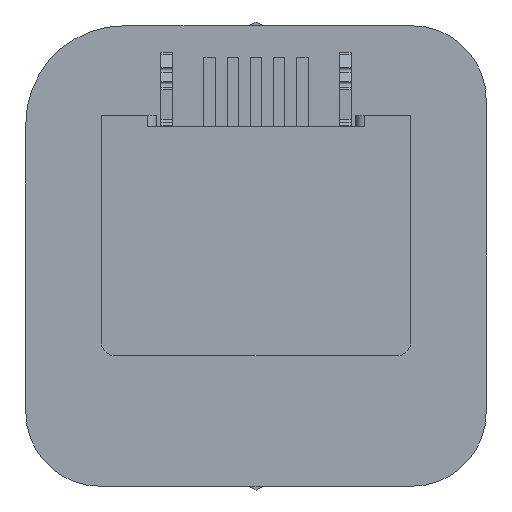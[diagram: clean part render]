
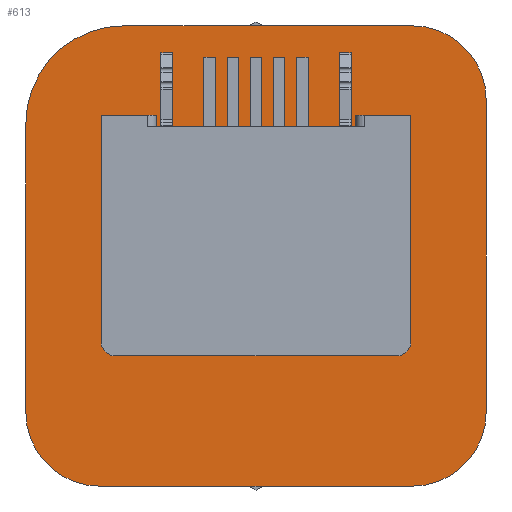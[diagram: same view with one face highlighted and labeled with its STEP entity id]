
A CAD part, front view. The second image highlights one B-rep face of the part: STEP entity #613.
In plain terms, the highlighted planar face has unit normal (0, -1, 0) as drawn and (0, 0, -1) by its records, which use the part's own axes.
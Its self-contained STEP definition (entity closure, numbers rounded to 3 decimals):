
#613 = ADVANCED_FACE( '', ( #1340, #1341 ), #1342, .F. );
#1340 = FACE_BOUND( '', #2133, .T. );
#1341 = FACE_OUTER_BOUND( '', #2134, .T. );
#1342 = PLANE( '', #2135 );
#2133 = EDGE_LOOP( '', ( #5061, #5062, #5063, #5064, #5065, #5066, #5067, #5068, #5069, #5070 ) );
#2134 = EDGE_LOOP( '', ( #5071, #5072, #5073, #5074, #5075, #5076, #5077, #5078 ) );
#2135 = AXIS2_PLACEMENT_3D( '', #5079, #5080, #5081 );
#5061 = ORIENTED_EDGE( '', *, *, #6563, .T. );
#5062 = ORIENTED_EDGE( '', *, *, #6561, .T. );
#5063 = ORIENTED_EDGE( '', *, *, #6558, .T. );
#5064 = ORIENTED_EDGE( '', *, *, #6555, .T. );
#5065 = ORIENTED_EDGE( '', *, *, #6572, .T. );
#5066 = ORIENTED_EDGE( '', *, *, #6524, .T. );
#5067 = ORIENTED_EDGE( '', *, *, #6573, .F. );
#5068 = ORIENTED_EDGE( '', *, *, #6574, .T. );
#5069 = ORIENTED_EDGE( '', *, *, #6575, .T. );
#5070 = ORIENTED_EDGE( '', *, *, #6530, .T. );
#5071 = ORIENTED_EDGE( '', *, *, #6518, .F. );
#5072 = ORIENTED_EDGE( '', *, *, #6516, .F. );
#5073 = ORIENTED_EDGE( '', *, *, #6514, .F. );
#5074 = ORIENTED_EDGE( '', *, *, #6512, .F. );
#5075 = ORIENTED_EDGE( '', *, *, #6510, .F. );
#5076 = ORIENTED_EDGE( '', *, *, #6508, .F. );
#5077 = ORIENTED_EDGE( '', *, *, #6506, .F. );
#5078 = ORIENTED_EDGE( '', *, *, #6504, .F. );
#5079 = CARTESIAN_POINT( '', ( 0., 0., 0. ) );
#5080 = DIRECTION( '', ( 0., 0., 1. ) );
#5081 = DIRECTION( '', ( 1., 0., 0. ) );
#6504 = EDGE_CURVE( '', #8190, #8192, #8193, .T. );
#6506 = EDGE_CURVE( '', #8192, #8195, #8196, .T. );
#6508 = EDGE_CURVE( '', #8195, #8198, #8199, .T. );
#6510 = EDGE_CURVE( '', #8198, #8201, #8202, .T. );
#6512 = EDGE_CURVE( '', #8201, #8204, #8205, .T. );
#6514 = EDGE_CURVE( '', #8204, #8207, #8208, .T. );
#6516 = EDGE_CURVE( '', #8207, #8210, #8211, .T. );
#6518 = EDGE_CURVE( '', #8210, #8190, #8213, .T. );
#6524 = EDGE_CURVE( '', #8214, #8223, #8225, .T. );
#6530 = EDGE_CURVE( '', #8226, #8235, #8237, .T. );
#6555 = EDGE_CURVE( '', #8287, #8285, #8288, .T. );
#6558 = EDGE_CURVE( '', #8292, #8287, #8293, .T. );
#6561 = EDGE_CURVE( '', #8297, #8292, #8298, .T. );
#6563 = EDGE_CURVE( '', #8235, #8297, #8300, .T. );
#6572 = EDGE_CURVE( '', #8285, #8214, #8313, .T. );
#6573 = EDGE_CURVE( '', #8314, #8223, #8315, .T. );
#6574 = EDGE_CURVE( '', #8314, #8316, #8317, .T. );
#6575 = EDGE_CURVE( '', #8316, #8226, #8318, .T. );
#8190 = VERTEX_POINT( '', #10761 );
#8192 = VERTEX_POINT( '', #10764 );
#8193 = CIRCLE( '', #10765, 2.55 );
#8195 = VERTEX_POINT( '', #10768 );
#8196 = LINE( '', #10769, #10770 );
#8198 = VERTEX_POINT( '', #10773 );
#8199 = CIRCLE( '', #10774, 3.387 );
#8201 = VERTEX_POINT( '', #10777 );
#8202 = LINE( '', #10778, #10779 );
#8204 = VERTEX_POINT( '', #10782 );
#8205 = CIRCLE( '', #10783, 2.55 );
#8207 = VERTEX_POINT( '', #10786 );
#8208 = LINE( '', #10787, #10788 );
#8210 = VERTEX_POINT( '', #10791 );
#8211 = CIRCLE( '', #10792, 2.55 );
#8213 = LINE( '', #10795, #10796 );
#8214 = VERTEX_POINT( '', #10797 );
#8223 = VERTEX_POINT( '', #10808 );
#8225 = LINE( '', #10811, #10812 );
#8226 = VERTEX_POINT( '', #10813 );
#8235 = VERTEX_POINT( '', #10824 );
#8237 = LINE( '', #10827, #10828 );
#8285 = VERTEX_POINT( '', #10888 );
#8287 = VERTEX_POINT( '', #10891 );
#8288 = CIRCLE( '', #10892, 0.5 );
#8292 = VERTEX_POINT( '', #10898 );
#8293 = LINE( '', #10899, #10900 );
#8297 = VERTEX_POINT( '', #10905 );
#8298 = CIRCLE( '', #10906, 0.5 );
#8300 = LINE( '', #10909, #10910 );
#8313 = LINE( '', #10931, #10932 );
#8314 = VERTEX_POINT( '', #10933 );
#8315 = LINE( '', #10934, #10935 );
#8316 = VERTEX_POINT( '', #10936 );
#8317 = LINE( '', #10937, #10938 );
#8318 = LINE( '', #10939, #10940 );
#10761 = CARTESIAN_POINT( '', ( -5.4, 7.95, 0. ) );
#10764 = CARTESIAN_POINT( '', ( -7.95, 5.4, 0. ) );
#10765 = AXIS2_PLACEMENT_3D( '', #12516, #12517, #12518 );
#10768 = CARTESIAN_POINT( '', ( -7.95, -4.563, 0. ) );
#10769 = CARTESIAN_POINT( '', ( -7.95, 5.4, 0. ) );
#10770 = VECTOR( '', #12520, 1000. );
#10773 = CARTESIAN_POINT( '', ( -4.563, -7.95, 0. ) );
#10774 = AXIS2_PLACEMENT_3D( '', #12522, #12523, #12524 );
#10777 = CARTESIAN_POINT( '', ( 5.4, -7.95, 0. ) );
#10778 = CARTESIAN_POINT( '', ( -4.563, -7.95, 0. ) );
#10779 = VECTOR( '', #12526, 1000. );
#10782 = CARTESIAN_POINT( '', ( 7.95, -5.4, 0. ) );
#10783 = AXIS2_PLACEMENT_3D( '', #12528, #12529, #12530 );
#10786 = CARTESIAN_POINT( '', ( 7.95, 5.4, 0. ) );
#10787 = CARTESIAN_POINT( '', ( 7.95, -5.4, 0. ) );
#10788 = VECTOR( '', #12532, 1000. );
#10791 = CARTESIAN_POINT( '', ( 5.4, 7.95, 0. ) );
#10792 = AXIS2_PLACEMENT_3D( '', #12534, #12535, #12536 );
#10795 = CARTESIAN_POINT( '', ( 5.4, 7.95, 0. ) );
#10796 = VECTOR( '', #12538, 1000. );
#10797 = CARTESIAN_POINT( '', ( -5.35, -4.87, 0. ) );
#10808 = CARTESIAN_POINT( '', ( -4.35, -4.87, 0. ) );
#10811 = CARTESIAN_POINT( '', ( -5.35, -4.87, 0. ) );
#10812 = VECTOR( '', #12548, 1000. );
#10813 = CARTESIAN_POINT( '', ( 4.35, -4.87, 0. ) );
#10824 = CARTESIAN_POINT( '', ( 5.35, -4.87, 0. ) );
#10827 = CARTESIAN_POINT( '', ( -5.35, -4.87, 0. ) );
#10828 = VECTOR( '', #12558, 1000. );
#10888 = CARTESIAN_POINT( '', ( -5.35, 2.95, 0. ) );
#10891 = CARTESIAN_POINT( '', ( -4.85, 3.45, 0. ) );
#10892 = AXIS2_PLACEMENT_3D( '', #12605, #12606, #12607 );
#10898 = CARTESIAN_POINT( '', ( 4.85, 3.45, 0. ) );
#10899 = CARTESIAN_POINT( '', ( 4.85, 3.45, 0. ) );
#10900 = VECTOR( '', #12610, 1000. );
#10905 = CARTESIAN_POINT( '', ( 5.35, 2.95, 0. ) );
#10906 = AXIS2_PLACEMENT_3D( '', #12615, #12616, #12617 );
#10909 = CARTESIAN_POINT( '', ( 5.35, -4.87, 0. ) );
#10910 = VECTOR( '', #12619, 1000. );
#10931 = CARTESIAN_POINT( '', ( -5.35, 2.95, 0. ) );
#10932 = VECTOR( '', #12628, 1000. );
#10933 = CARTESIAN_POINT( '', ( -4.35, -3.35, 0. ) );
#10934 = CARTESIAN_POINT( '', ( -4.35, -3.35, 0. ) );
#10935 = VECTOR( '', #12629, 1000. );
#10936 = CARTESIAN_POINT( '', ( 4.35, -3.35, 0. ) );
#10937 = CARTESIAN_POINT( '', ( -4.35, -3.35, 0. ) );
#10938 = VECTOR( '', #12630, 1000. );
#10939 = CARTESIAN_POINT( '', ( 4.35, -3.35, 0. ) );
#10940 = VECTOR( '', #12631, 1000. );
#12516 = CARTESIAN_POINT( '', ( -5.4, 5.4, 0. ) );
#12517 = DIRECTION( '', ( 0., 0., 1. ) );
#12518 = DIRECTION( '', ( 1., 0., 0. ) );
#12520 = DIRECTION( '', ( 0., -1., 0. ) );
#12522 = CARTESIAN_POINT( '', ( -4.563, -4.563, 0. ) );
#12523 = DIRECTION( '', ( 0., 0., 1. ) );
#12524 = DIRECTION( '', ( 1., 0., 0. ) );
#12526 = DIRECTION( '', ( 1., 0., 0. ) );
#12528 = CARTESIAN_POINT( '', ( 5.4, -5.4, 0. ) );
#12529 = DIRECTION( '', ( 0., 0., 1. ) );
#12530 = DIRECTION( '', ( 1., 0., 0. ) );
#12532 = DIRECTION( '', ( 0., 1., 0. ) );
#12534 = CARTESIAN_POINT( '', ( 5.4, 5.4, 0. ) );
#12535 = DIRECTION( '', ( 0., 0., 1. ) );
#12536 = DIRECTION( '', ( 1., 0., 0. ) );
#12538 = DIRECTION( '', ( -1., 0., 0. ) );
#12548 = DIRECTION( '', ( 1., 0., 0. ) );
#12558 = DIRECTION( '', ( 1., 0., 0. ) );
#12605 = CARTESIAN_POINT( '', ( -4.85, 2.95, 0. ) );
#12606 = DIRECTION( '', ( 0., 0., 1. ) );
#12607 = DIRECTION( '', ( 1., 0., 0. ) );
#12610 = DIRECTION( '', ( -1., 0., 0. ) );
#12615 = CARTESIAN_POINT( '', ( 4.85, 2.95, 0. ) );
#12616 = DIRECTION( '', ( 0., 0., 1. ) );
#12617 = DIRECTION( '', ( 1., 0., 0. ) );
#12619 = DIRECTION( '', ( 0., 1., 0. ) );
#12628 = DIRECTION( '', ( 0., -1., 0. ) );
#12629 = DIRECTION( '', ( 0., -1., 0. ) );
#12630 = DIRECTION( '', ( 1., 0., 0. ) );
#12631 = DIRECTION( '', ( 0., -1., 0. ) );
